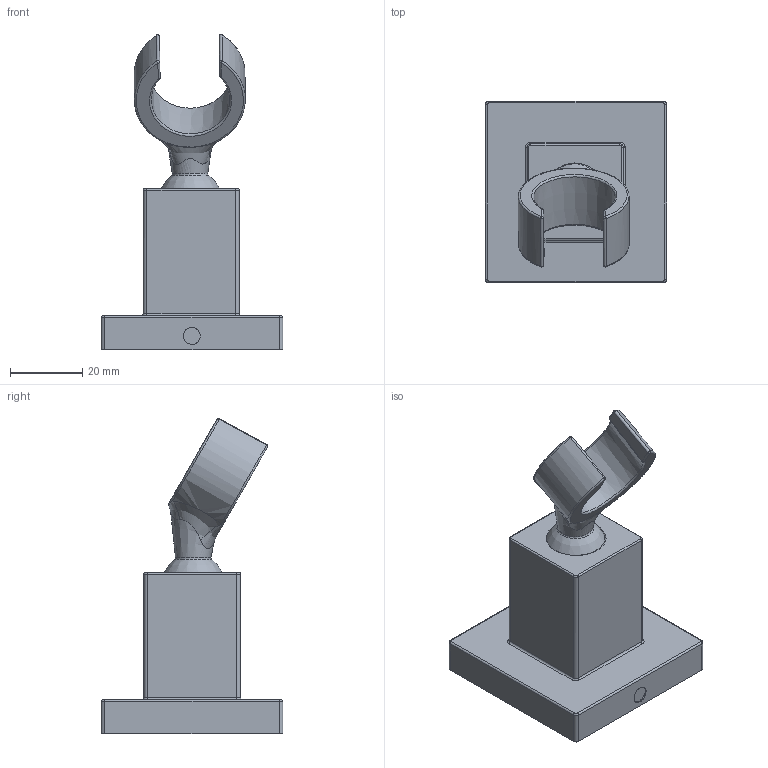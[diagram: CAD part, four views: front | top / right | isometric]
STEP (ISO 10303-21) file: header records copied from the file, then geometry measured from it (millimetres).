
FILE_DESCRIPTION(/* description */ (''),/* implementation_level */ '2;1');
FILE_NAME(/* name */ 'c:\worker\convert-fusion-r09\tmp\job-1\7\output\files\2b38cba0-8760-470d-9ab1-858c521232a7\402d7aae-ae66-44f3-a0c9-ba0cf45dff75.zip.stp',/* time_stamp */ '2019-12-14T15:52:41+00:00',/* author */ (''),/* organization */ (''),/* preprocessor_version */ 'ST-DEVELOPER v18',/* originating_system */ 'Autodesk Translation Framework v8.12.0.6',/* authorisation */ '');
FILE_SCHEMA (('AUTOMOTIVE_DESIGN { 1 0 10303 214 3 1 1 }'));
Length unit declared in the file: millimetre
Products named in the file (1): !8859/K
Bounding box: 50.31 x 50.34 x 87.3 mm (x, y, z)
Volume: 54941.3 mm3; surface area: 15015.5 mm2
Topology: 2 solids, 2 shells, 81 faces, 185 edges, 107 vertices
Faces by surface type: bspline 41, cylinder 22, plane 16, sphere 2
Entity records: 10064 total; most frequent: CARTESIAN_POINT 8408, ORIENTED_EDGE 362, DIRECTION 300, EDGE_CURVE 181, AXIS2_PLACEMENT_3D 121, VERTEX_POINT 107, EDGE_LOOP 84, FACE_OUTER_BOUND 81
